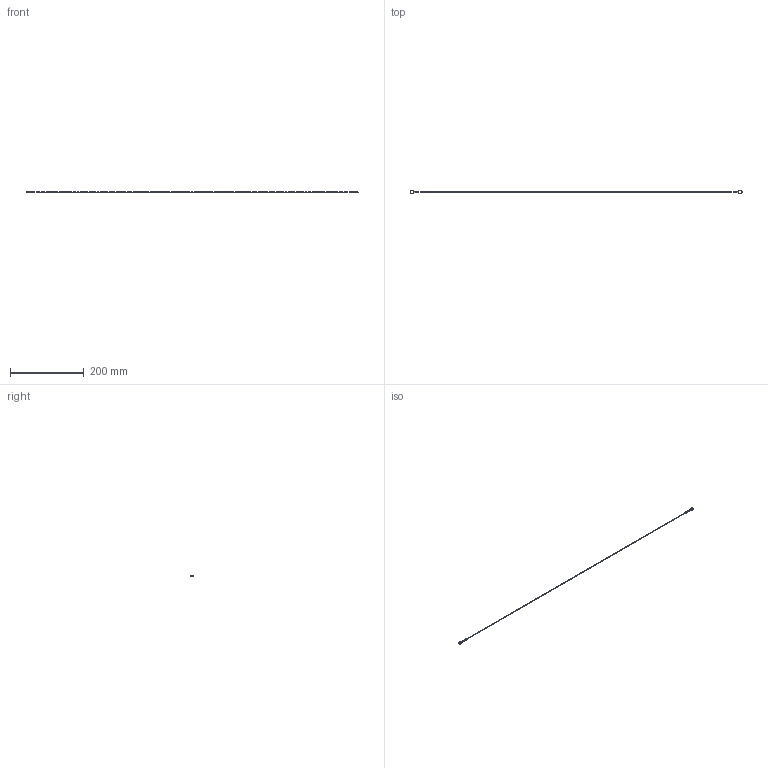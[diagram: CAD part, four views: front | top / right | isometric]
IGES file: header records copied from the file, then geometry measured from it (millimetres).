
Start section:  PTC IGES file: EB-935_10.igs
Global section: file name: EB-935_10.igs; native system: Creo Parametric by Parametric Technology Corporation; preprocessor: 2012360; author: xeon_1; organization: Unknown; date: 20130808.093727; units: millimetre
Bounding box: 899.96 x 10.11 x 2.5 mm (x, y, z)
Volume: 545.2 mm3; surface area: 2565.2 mm2
Topology: 1 solids, 1 shells, 26 faces, 62 edges, 36 vertices
Faces by surface type: revolution 14, bspline 12
